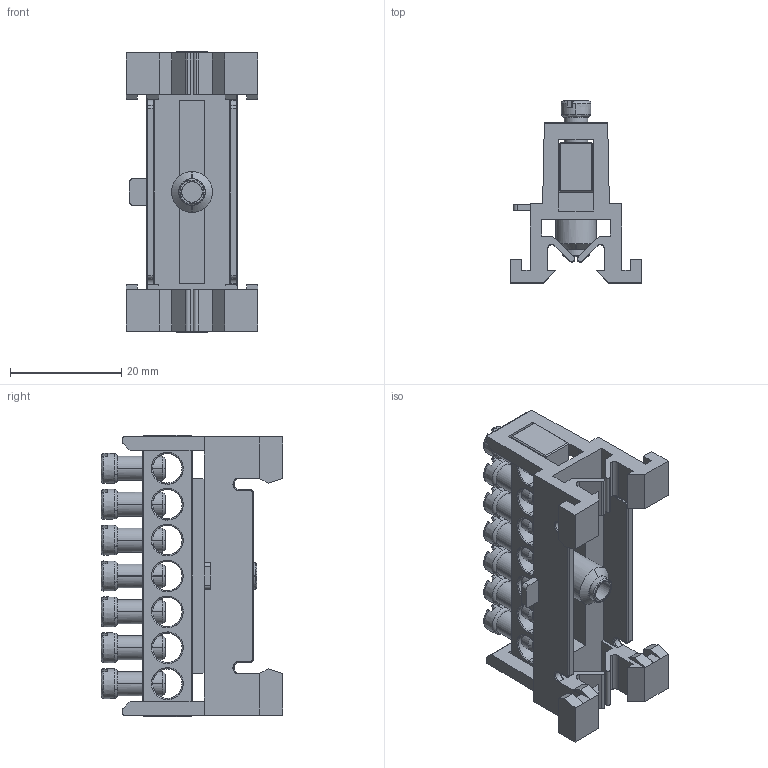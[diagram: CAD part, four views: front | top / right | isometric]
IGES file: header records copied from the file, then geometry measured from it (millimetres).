
Start section: SolidWorks IGES file using analytic representation for surfaces
Global section: file name: U:\14_RD\05_Technical_office\04_Office\Hrdinova\3D modely - IGES\Minia\CS-N7.IGS; native system: SolidWorks 2011; preprocessor: SolidWorks 2011; author: adhrja3; date: 170615.072623; units: millimetre
Bounding box: 23.7 x 32.67 x 50.6 mm (x, y, z)
Surface area: 9625.9 mm2 (no closed solid volume)
Topology: 0 solids, 0 shells, 571 faces, 4878 edges, 4878 vertices
Faces by surface type: bspline 399, revolution 172
